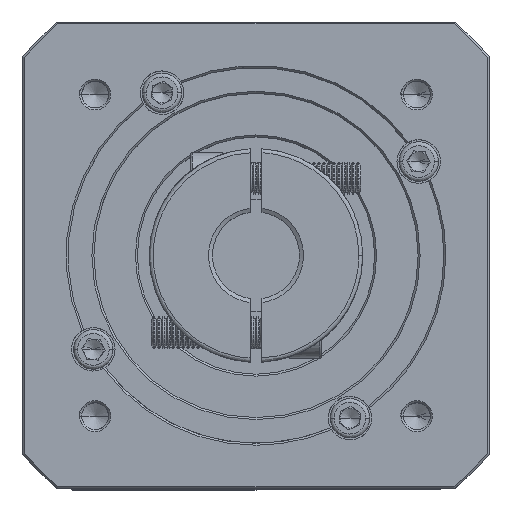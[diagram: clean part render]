
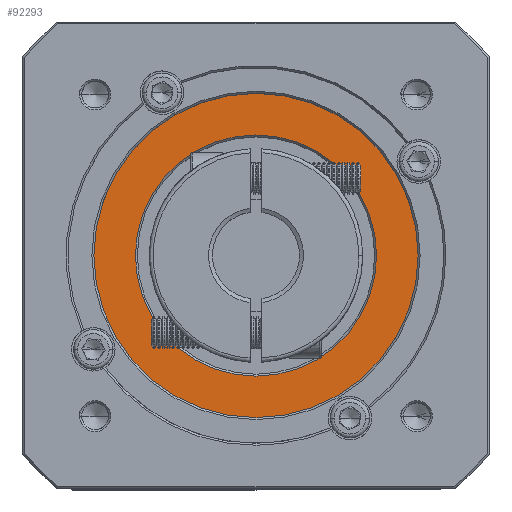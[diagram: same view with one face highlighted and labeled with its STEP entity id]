
A CAD part, top view. The second image highlights one B-rep face of the part: STEP entity #92293.
In plain terms, the highlighted planar face has unit normal (0, 0, 1).
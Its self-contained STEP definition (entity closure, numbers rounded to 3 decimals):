
#1257 = CIRCLE ( 'NONE', #91181, 41. ) ;
#3448 = DIRECTION ( 'NONE',  ( 1., 0., 0. ) ) ;
#4252 = AXIS2_PLACEMENT_3D ( 'NONE', #45223, #115634, #54222 ) ;
#5715 = DIRECTION ( 'NONE',  ( 0., 0., -1. ) ) ;
#9142 = CARTESIAN_POINT ( 'NONE',  ( 40.841, 116.278, -3.077 ) ) ;
#10192 = EDGE_CURVE ( 'NONE', #109570, #82039, #11876, .T. ) ;
#11876 = CIRCLE ( 'NONE', #82462, 30.5 ) ;
#13549 = DIRECTION ( 'NONE',  ( 0., 0., -1. ) ) ;
#15855 = CARTESIAN_POINT ( 'NONE',  ( 71.341, 116.278, -3.077 ) ) ;
#35601 = PLANE ( 'NONE',  #102877 ) ;
#38833 = CIRCLE ( 'NONE', #115033, 30.5 ) ;
#40317 = DIRECTION ( 'NONE',  ( 1., 0., 0. ) ) ;
#40872 = EDGE_LOOP ( 'NONE', ( #69120, #93385 ) ) ;
#41303 = EDGE_CURVE ( 'NONE', #60170, #62622, #94787, .T. ) ;
#45223 = CARTESIAN_POINT ( 'NONE',  ( 40.841, 116.278, -3.077 ) ) ;
#45337 = EDGE_LOOP ( 'NONE', ( #110238, #89779 ) ) ;
#53660 = FACE_OUTER_BOUND ( 'NONE', #45337, .T. ) ;
#54222 = DIRECTION ( 'NONE',  ( 1., 0., 0. ) ) ;
#60170 = VERTEX_POINT ( 'NONE', #66791 ) ;
#61443 = DIRECTION ( 'NONE',  ( 0., 0., 1. ) ) ;
#62622 = VERTEX_POINT ( 'NONE', #86009 ) ;
#66226 = CARTESIAN_POINT ( 'NONE',  ( 40.841, 116.278, -3.077 ) ) ;
#66791 = CARTESIAN_POINT ( 'NONE',  ( -0.159, 116.278, -3.077 ) ) ;
#67020 = CARTESIAN_POINT ( 'NONE',  ( 40.841, 116.278, -3.077 ) ) ;
#67731 = CARTESIAN_POINT ( 'NONE',  ( 40.841, 116.278, -3.077 ) ) ;
#69120 = ORIENTED_EDGE ( 'NONE', *, *, #10192, .T. ) ;
#78046 = EDGE_CURVE ( 'NONE', #82039, #109570, #38833, .T. ) ;
#78756 = CARTESIAN_POINT ( 'NONE',  ( 10.341, 116.278, -3.077 ) ) ;
#82039 = VERTEX_POINT ( 'NONE', #78756 ) ;
#82462 = AXIS2_PLACEMENT_3D ( 'NONE', #67020, #13549, #113149 ) ;
#86009 = CARTESIAN_POINT ( 'NONE',  ( 81.841, 116.278, -3.077 ) ) ;
#89779 = ORIENTED_EDGE ( 'NONE', *, *, #41303, .T. ) ;
#91181 = AXIS2_PLACEMENT_3D ( 'NONE', #66226, #109680, #3448 ) ;
#92293 = ADVANCED_FACE ( 'NONE', ( #53660, #101318 ), #35601, .T. ) ;
#93385 = ORIENTED_EDGE ( 'NONE', *, *, #78046, .T. ) ;
#94787 = CIRCLE ( 'NONE', #4252, 41. ) ;
#100979 = EDGE_CURVE ( 'NONE', #62622, #60170, #1257, .T. ) ;
#101318 = FACE_BOUND ( 'NONE', #40872, .T. ) ;
#102877 = AXIS2_PLACEMENT_3D ( 'NONE', #9142, #61443, #115751 ) ;
#109570 = VERTEX_POINT ( 'NONE', #15855 ) ;
#109680 = DIRECTION ( 'NONE',  ( 0., 0., 1. ) ) ;
#110238 = ORIENTED_EDGE ( 'NONE', *, *, #100979, .T. ) ;
#113149 = DIRECTION ( 'NONE',  ( 1., 0., 0. ) ) ;
#115033 = AXIS2_PLACEMENT_3D ( 'NONE', #67731, #5715, #40317 ) ;
#115634 = DIRECTION ( 'NONE',  ( 0., 0., 1. ) ) ;
#115751 = DIRECTION ( 'NONE',  ( 1., 0., 0. ) ) ;
